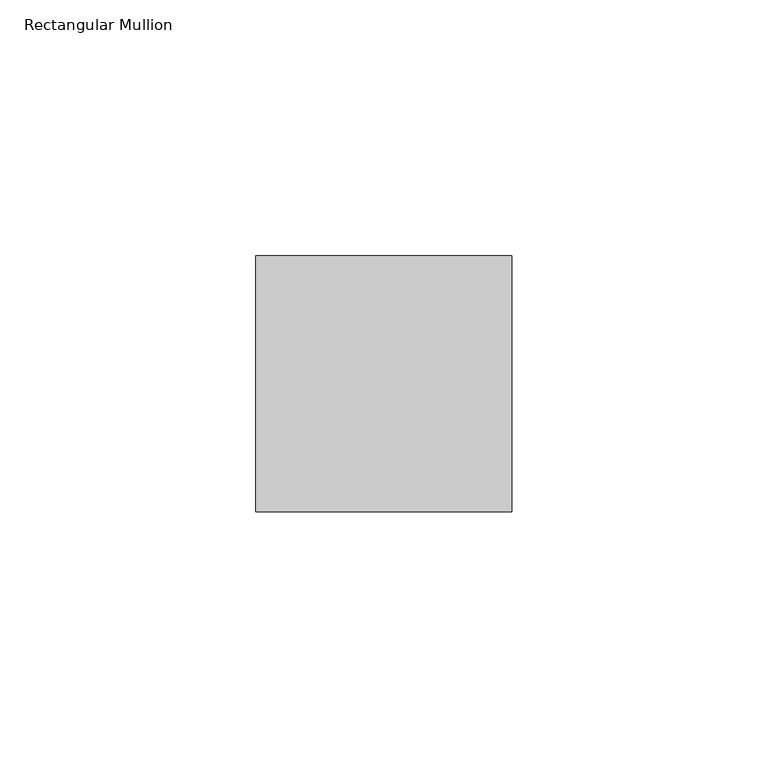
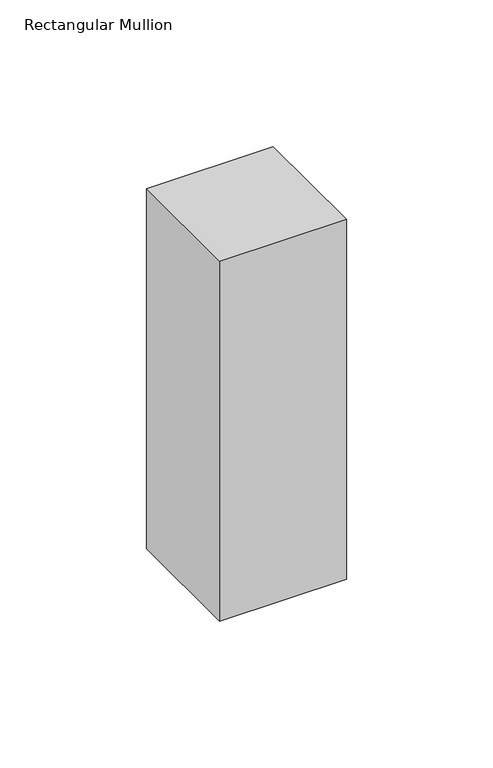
"""IFC4 building model written with IfcOpenShell, lengths in millimetres: member geometry, Rectangular Mullion : RSen_21_CWM_support profile 50x50_gen_duco projects."""

import ifcopenshell
import ifcopenshell.guid

model = None  # the IFC model being written
_history = None  # IfcOwnerHistory: only IFC2X3 demands one
_inside = {}  # id of a spatial element -> (the spatial element, [elements in it])
_under = {}  # id of a project, library or spatial element -> (it, [spatial elements below it])
_declared = {}  # id of a project -> (the project, [libraries it declares])
_typed = {}  # id of a type object -> (the type object, [elements of that type])
_made_of = {}  # id of a material, layer set ... -> (it, [elements and type objects made of it])


def new_model(schema):
    """Start an empty IFC model of exactly this schema.

    Asked for "IFC4X3", IfcOpenShell would pick the latest addendum, in which some entities
    have other attributes; the version numbers below select the first issue.
    IFC2X3 requires an IfcOwnerHistory on every rooted entity: one is made here for all.
    """
    global model, _history
    if schema == "IFC4X3":
        model = ifcopenshell.file(schema_version=(4, 3, 0, 0))
    else:
        model = ifcopenshell.file(schema=schema)
    _inside.clear()
    _under.clear()
    _declared.clear()
    _typed.clear()
    _made_of.clear()
    _history = None
    if model.schema == "IFC2X3":
        org = make("IfcOrganization", Name="unknown")
        user = make(
            "IfcPersonAndOrganization",
            ThePerson=make("IfcPerson", FamilyName="unknown"),
            TheOrganization=org,
        )
        app = make(
            "IfcApplication",
            ApplicationDeveloper=org,
            Version="unknown",
            ApplicationFullName="unknown",
            ApplicationIdentifier="unknown",
        )
        _history = make(
            "IfcOwnerHistory",
            OwningUser=user,
            OwningApplication=app,
            ChangeAction="ADDED",
            CreationDate=0,
        )
    return model


def make(cls, **values):
    """One entity of the class cls with the attributes given. An attribute that is None is left unset."""
    return model.create_entity(
        cls, **{name: value for name, value in values.items() if value is not None}
    )


def rooted(cls, **values):
    """An entity with a GlobalId (a new one), such as an element, a storey or a relation."""
    return make(cls, GlobalId=ifcopenshell.guid.new(), OwnerHistory=_history, **values)


def si_unit(unit_type, name, prefix=None):
    """IfcSIUnit, for example si_unit("LENGTHUNIT", "METRE", prefix="MILLI")."""
    return make("IfcSIUnit", UnitType=unit_type, Prefix=prefix, Name=name)


def assignment(units):
    """IfcUnitAssignment: the units of a project."""
    return None if units is None else make("IfcUnitAssignment", Units=units)


def point(xyz):
    """IfcCartesianPoint."""
    return None if xyz is None else make("IfcCartesianPoint", Coordinates=xyz)


def direction(xyz):
    """IfcDirection."""
    return None if xyz is None else make("IfcDirection", DirectionRatios=xyz)


def frame(location, z_axis=None, x_axis=None):
    """IfcAxis2Placement3D, a coordinate frame: its origin and axes. An axis left out is left unset."""
    return make(
        "IfcAxis2Placement3D",
        Location=point(location),
        Axis=direction(z_axis),
        RefDirection=direction(x_axis),
    )


def origin():
    """The frame at (0, 0, 0) with its axes left unset."""
    return frame((0.0, 0.0, 0.0))


def place(relative_to, where):
    """IfcLocalPlacement: puts the frame where relative to a parent placement (None: the world)."""
    return make(
        "IfcLocalPlacement", PlacementRelTo=relative_to, RelativePlacement=where
    )


def context(
    kind, dimensions, precision=None, world=None, true_north=None, identifier=None
):
    """IfcGeometricRepresentationContext, for example the 3D "Model" context."""
    return make(
        "IfcGeometricRepresentationContext",
        ContextIdentifier=identifier,
        ContextType=kind,
        CoordinateSpaceDimension=dimensions,
        Precision=precision,
        WorldCoordinateSystem=world,
        TrueNorth=true_north,
    )


def project(units=None, contexts=None):
    """IfcProject with its units and contexts."""
    return rooted(
        "IfcProject",
        Name="project",
        RepresentationContexts=contexts,
        UnitsInContext=assignment(units),
    )


def spatial(cls, under=None, at=None, **own):
    """A site, building, storey or space (cls), placed at a placement, below another one or the project."""
    s = rooted(cls, ObjectPlacement=at, **own)
    if under is not None:
        _under.setdefault(under.id(), (under, []))[1].append(s)
    return s


def polyline(points):
    """IfcPolyline through the points."""
    return make("IfcPolyline", Points=[point(p) for p in points])


def outline(outer, holes=None, kind="AREA"):
    """IfcArbitraryClosedProfileDef: a profile drawn as a closed curve; with holes, ...WithVoids."""
    if holes is None:
        return make("IfcArbitraryClosedProfileDef", ProfileType=kind, OuterCurve=outer)
    return make(
        "IfcArbitraryProfileDefWithVoids",
        ProfileType=kind,
        OuterCurve=outer,
        InnerCurves=holes,
    )


def extrude(swept, where, along, depth):
    """IfcExtrudedAreaSolid: the profile swept, set in the frame where, extruded along a direction by depth."""
    return make(
        "IfcExtrudedAreaSolid",
        SweptArea=swept,
        Position=where,
        ExtrudedDirection=direction(along),
        Depth=depth,
    )


def shape(context_of_items, identifier, shape_type, items):
    """IfcShapeRepresentation: the items that make up one representation, for example the "Body"."""
    return make(
        "IfcShapeRepresentation",
        ContextOfItems=context_of_items,
        RepresentationIdentifier=identifier,
        RepresentationType=shape_type,
        Items=items,
    )


def source(mapping_origin, context_of_items, identifier, shape_type, items):
    """IfcRepresentationMap: a shape defined once, which mapped items show again and again."""
    return make(
        "IfcRepresentationMap",
        MappingOrigin=mapping_origin,
        MappedRepresentation=shape(context_of_items, identifier, shape_type, items),
    )


def transform(
    local_origin,
    x_axis=None,
    y_axis=None,
    z_axis=None,
    scale=None,
    scale2=None,
    scale3=None,
    uniform=True,
):
    """IfcCartesianTransformationOperator3D, or its non-uniform kind. x_axis, y_axis, z_axis: its Axis1, 2, 3."""
    if uniform:
        return make(
            "IfcCartesianTransformationOperator3D",
            Axis1=direction(x_axis),
            Axis2=direction(y_axis),
            LocalOrigin=point(local_origin),
            Scale=scale,
            Axis3=direction(z_axis),
        )
    return make(
        "IfcCartesianTransformationOperator3DnonUniform",
        Axis1=direction(x_axis),
        Axis2=direction(y_axis),
        LocalOrigin=point(local_origin),
        Scale=scale,
        Axis3=direction(z_axis),
        Scale2=scale2,
        Scale3=scale3,
    )


def mapped(mapping_source, mapping_target):
    """IfcMappedItem: shows the shape of a source again, moved by a transform."""
    return make(
        "IfcMappedItem", MappingSource=mapping_source, MappingTarget=mapping_target
    )


def made_of(thing, what):
    """Note that an element or type object is made of a material, layer set ...; save() writes the relation."""
    if what is not None:
        _made_of.setdefault(what.id(), (what, []))[1].append(thing)
    return thing


def element(
    cls,
    number,
    at=None,
    inside=None,
    cuts=None,
    type_object=None,
    material=None,
    context=None,
    identifier="Body",
    shape_type=None,
    held_by="IfcProductDefinitionShape",
    body=None,
    shapes=None,
    **own,
):
    """One element of the class cls, such as IfcWall. Its Tag is "e" and its number.

    at: its placement. inside: the storey or other place that contains it. cuts: it is an
    opening in that element (IfcRelVoidsElement). A single representation is given by context,
    identifier, shape_type and body (its items); several are given by shapes. held_by: the class
    of the entity that holds the representations. save() writes the other relations.
    """
    e = rooted(cls, Tag="e%d" % number, ObjectPlacement=at, **own)
    if body is not None:
        shapes = [shape(context, identifier, shape_type, body)]
    if shapes is not None:
        e.Representation = make(held_by, Representations=shapes)
    if inside is not None:
        _inside.setdefault(inside.id(), (inside, []))[1].append(e)
    if cuts is not None:
        rooted(
            "IfcRelVoidsElement", RelatingBuildingElement=cuts, RelatedOpeningElement=e
        )
    if type_object is not None:
        _typed.setdefault(type_object.id(), (type_object, []))[1].append(e)
    return made_of(e, material)


def aggregate(whole, parts):
    """IfcRelAggregates: a whole, such as a stair, and the parts it consists of."""
    return rooted("IfcRelAggregates", RelatingObject=whole, RelatedObjects=parts)


def save(model, path):
    """Write the relations noted so far, then the file.

    IfcRelAggregates (storeys below a building ...), IfcRelContainedInSpatialStructure (elements
    in a storey), IfcRelDefinesByType, IfcRelAssociatesMaterial and IfcRelDeclares: one each for
    every whole, place, type object, material and project.
    """
    for whole, parts in _under.values():
        aggregate(whole, parts)
    for where, things in _inside.values():
        rooted(
            "IfcRelContainedInSpatialStructure",
            RelatedElements=things,
            RelatingStructure=where,
        )
    for kind, things in _typed.values():
        rooted("IfcRelDefinesByType", RelatedObjects=things, RelatingType=kind)
    for what, things in _made_of.values():
        rooted("IfcRelAssociatesMaterial", RelatedObjects=things, RelatingMaterial=what)
    for by, libraries in _declared.values():
        rooted("IfcRelDeclares", RelatingContext=by, RelatedDefinitions=libraries)
    model.write(path)


def rectangular_mullion_eb4a5411(model_context):
    return source(origin(), model_context, "Body", "SweptSolid", [
        extrude(outline(polyline([(25.0, 1.0), (25.0, -49.0), (-25.0, -49.0), (-25.0, 1.0), (25.0, 1.0)])), frame((0.0, 0.0, -150.0), z_axis=(0.0, 0.0, 1.0), x_axis=(1.0, 0.0, 0.0)), (0.0, 0.0, 1.0), 150.0),
    ])


if __name__ == "__main__":
    model = new_model("IFC4")
    model_context = context("Model", 3, world=origin())
    ifc_project = project(units=[si_unit("LENGTHUNIT", "METRE", prefix="MILLI")], contexts=[model_context])
    site = spatial("IfcSite", under=ifc_project)
    building = spatial("IfcBuilding", under=site)
    placement = place(None, origin())
    rectangular_mullion_shape = rectangular_mullion_eb4a5411(model_context)
    element("IfcMember", 1, ObjectType="Rectangular Mullion : RSen_21_CWM_support profile 50x50_gen_duco projects", at=placement, inside=building, context=model_context, shape_type="MappedRepresentation", body=[
        mapped(rectangular_mullion_shape, transform((0.0, 0.0, 0.0), x_axis=(1.0, 0.0, 0.0), y_axis=(0.0, 1.0, 0.0), z_axis=(0.0, 0.0, 1.0))),
    ])
    save(model, "model.ifc")
